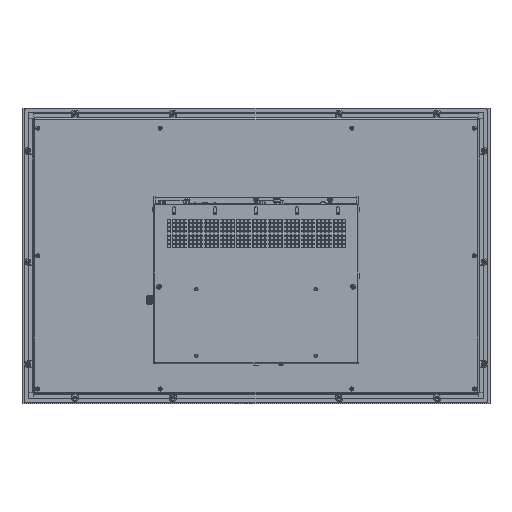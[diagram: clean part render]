
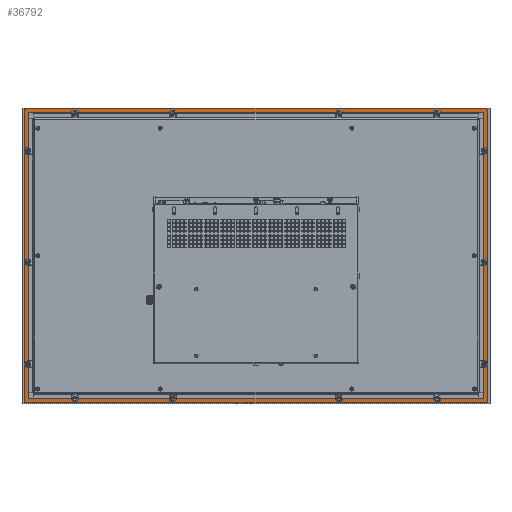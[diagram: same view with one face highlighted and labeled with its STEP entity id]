
A CAD part, front view. The second image highlights one B-rep face of the part: STEP entity #36792.
In plain terms, the highlighted planar face has unit normal (0, -1, 0).
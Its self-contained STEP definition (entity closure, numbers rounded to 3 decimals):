
#35078=CARTESIAN_POINT('',(286.25,0.5,-180.5));
#35079=DIRECTION('',(0.,1.,0.));
#35080=DIRECTION('',(1.,0.,0.));
#35081=AXIS2_PLACEMENT_3D('',#35078,#35079,#35080);
#35083=DIRECTION('',(-1.,0.,0.));
#35084=VECTOR('',#35083,572.5);
#35085=CARTESIAN_POINT('',(286.25,0.5,-182.5));
#35086=LINE('',#35085,#35084);
#35087=CARTESIAN_POINT('',(-286.25,0.5,-180.5));
#35088=DIRECTION('',(0.,1.,0.));
#35089=DIRECTION('',(0.,0.,-1.));
#35090=AXIS2_PLACEMENT_3D('',#35087,#35088,#35089);
#35092=DIRECTION('',(0.,0.,1.));
#35093=VECTOR('',#35092,361.);
#35094=CARTESIAN_POINT('',(-288.25,0.5,-180.5));
#35095=LINE('',#35094,#35093);
#35096=CARTESIAN_POINT('',(-286.25,0.5,180.5));
#35097=DIRECTION('',(0.,1.,0.));
#35098=DIRECTION('',(-1.,0.,0.));
#35099=AXIS2_PLACEMENT_3D('',#35096,#35097,#35098);
#35101=DIRECTION('',(1.,0.,0.));
#35102=VECTOR('',#35101,572.5);
#35103=CARTESIAN_POINT('',(-286.25,0.5,182.5));
#35104=LINE('',#35103,#35102);
#35105=CARTESIAN_POINT('',(286.25,0.5,180.5));
#35106=DIRECTION('',(0.,1.,0.));
#35107=DIRECTION('',(0.,0.,1.));
#35108=AXIS2_PLACEMENT_3D('',#35105,#35106,#35107);
#35110=DIRECTION('',(0.,0.,-1.));
#35111=VECTOR('',#35110,361.);
#35112=CARTESIAN_POINT('',(288.25,0.5,180.5));
#35113=LINE('',#35112,#35111);
#35114=CARTESIAN_POINT('',(282.25,0.5,-176.5));
#35115=DIRECTION('',(0.,-1.,0.));
#35116=DIRECTION('',(0.,0.,-1.));
#35117=AXIS2_PLACEMENT_3D('',#35114,#35115,#35116);
#35119=DIRECTION('',(0.,0.,1.));
#35120=VECTOR('',#35119,353.);
#35121=CARTESIAN_POINT('',(283.25,0.5,-176.5));
#35122=LINE('',#35121,#35120);
#35123=CARTESIAN_POINT('',(282.25,0.5,176.5));
#35124=DIRECTION('',(0.,-1.,0.));
#35125=DIRECTION('',(1.,0.,0.));
#35126=AXIS2_PLACEMENT_3D('',#35123,#35124,#35125);
#35128=DIRECTION('',(-1.,0.,0.));
#35129=VECTOR('',#35128,564.5);
#35130=CARTESIAN_POINT('',(282.25,0.5,177.5));
#35131=LINE('',#35130,#35129);
#35132=CARTESIAN_POINT('',(-282.25,0.5,176.5));
#35133=DIRECTION('',(0.,-1.,0.));
#35134=DIRECTION('',(0.,0.,1.));
#35135=AXIS2_PLACEMENT_3D('',#35132,#35133,#35134);
#35137=DIRECTION('',(0.,0.,-1.));
#35138=VECTOR('',#35137,353.);
#35139=CARTESIAN_POINT('',(-283.25,0.5,176.5));
#35140=LINE('',#35139,#35138);
#35141=CARTESIAN_POINT('',(-282.25,0.5,-176.5));
#35142=DIRECTION('',(0.,-1.,0.));
#35143=DIRECTION('',(-1.,0.,0.));
#35144=AXIS2_PLACEMENT_3D('',#35141,#35142,#35143);
#35146=DIRECTION('',(1.,0.,0.));
#35147=VECTOR('',#35146,564.5);
#35148=CARTESIAN_POINT('',(-282.25,0.5,-177.5));
#35149=LINE('',#35148,#35147);
#36109=CARTESIAN_POINT('',(288.25,0.5,-180.5));
#36110=CARTESIAN_POINT('',(286.25,0.5,-182.5));
#36111=VERTEX_POINT('',#36109);
#36112=VERTEX_POINT('',#36110);
#36113=CARTESIAN_POINT('',(288.25,0.5,180.5));
#36114=VERTEX_POINT('',#36113);
#36115=CARTESIAN_POINT('',(286.25,0.5,182.5));
#36116=VERTEX_POINT('',#36115);
#36117=CARTESIAN_POINT('',(-286.25,0.5,182.5));
#36118=VERTEX_POINT('',#36117);
#36119=CARTESIAN_POINT('',(-288.25,0.5,180.5));
#36120=VERTEX_POINT('',#36119);
#36121=CARTESIAN_POINT('',(-288.25,0.5,-180.5));
#36122=VERTEX_POINT('',#36121);
#36123=CARTESIAN_POINT('',(-286.25,0.5,-182.5));
#36124=VERTEX_POINT('',#36123);
#36157=CARTESIAN_POINT('',(282.25,0.5,-177.5));
#36158=CARTESIAN_POINT('',(283.25,0.5,-176.5));
#36159=VERTEX_POINT('',#36157);
#36160=VERTEX_POINT('',#36158);
#36161=CARTESIAN_POINT('',(283.25,0.5,176.5));
#36162=VERTEX_POINT('',#36161);
#36163=CARTESIAN_POINT('',(282.25,0.5,177.5));
#36164=VERTEX_POINT('',#36163);
#36165=CARTESIAN_POINT('',(-282.25,0.5,177.5));
#36166=VERTEX_POINT('',#36165);
#36167=CARTESIAN_POINT('',(-283.25,0.5,176.5));
#36168=VERTEX_POINT('',#36167);
#36169=CARTESIAN_POINT('',(-283.25,0.5,-176.5));
#36170=VERTEX_POINT('',#36169);
#36171=CARTESIAN_POINT('',(-282.25,0.5,-177.5));
#36172=VERTEX_POINT('',#36171);
#36751=CARTESIAN_POINT('',(0.,0.5,0.));
#36752=DIRECTION('',(0.,-1.,0.));
#36753=DIRECTION('',(-1.,0.,0.));
#36754=AXIS2_PLACEMENT_3D('',#36751,#36752,#36753);
#36755=PLANE('',#36754);
#36757=ORIENTED_EDGE('',*,*,#36756,.T.);
#36759=ORIENTED_EDGE('',*,*,#36758,.T.);
#36761=ORIENTED_EDGE('',*,*,#36760,.T.);
#36763=ORIENTED_EDGE('',*,*,#36762,.T.);
#36765=ORIENTED_EDGE('',*,*,#36764,.T.);
#36767=ORIENTED_EDGE('',*,*,#36766,.T.);
#36769=ORIENTED_EDGE('',*,*,#36768,.T.);
#36771=ORIENTED_EDGE('',*,*,#36770,.T.);
#36772=EDGE_LOOP('',(#36757,#36759,#36761,#36763,#36765,#36767,#36769,#36771));
#36773=FACE_OUTER_BOUND('',#36772,.F.);
#36775=ORIENTED_EDGE('',*,*,#36774,.T.);
#36777=ORIENTED_EDGE('',*,*,#36776,.T.);
#36779=ORIENTED_EDGE('',*,*,#36778,.T.);
#36781=ORIENTED_EDGE('',*,*,#36780,.T.);
#36783=ORIENTED_EDGE('',*,*,#36782,.T.);
#36785=ORIENTED_EDGE('',*,*,#36784,.T.);
#36787=ORIENTED_EDGE('',*,*,#36786,.T.);
#36789=ORIENTED_EDGE('',*,*,#36788,.T.);
#36790=EDGE_LOOP('',(#36775,#36777,#36779,#36781,#36783,#36785,#36787,#36789));
#36791=FACE_BOUND('',#36790,.F.);
#35082=CIRCLE('',#35081,2.);
#35091=CIRCLE('',#35090,2.);
#35100=CIRCLE('',#35099,2.);
#35109=CIRCLE('',#35108,2.);
#35118=CIRCLE('',#35117,1.);
#35127=CIRCLE('',#35126,1.);
#35136=CIRCLE('',#35135,1.);
#35145=CIRCLE('',#35144,1.);
#36756=EDGE_CURVE('',#36111,#36112,#35082,.T.);
#36758=EDGE_CURVE('',#36112,#36124,#35086,.T.);
#36760=EDGE_CURVE('',#36124,#36122,#35091,.T.);
#36762=EDGE_CURVE('',#36122,#36120,#35095,.T.);
#36764=EDGE_CURVE('',#36120,#36118,#35100,.T.);
#36766=EDGE_CURVE('',#36118,#36116,#35104,.T.);
#36768=EDGE_CURVE('',#36116,#36114,#35109,.T.);
#36770=EDGE_CURVE('',#36114,#36111,#35113,.T.);
#36774=EDGE_CURVE('',#36159,#36160,#35118,.T.);
#36776=EDGE_CURVE('',#36160,#36162,#35122,.T.);
#36778=EDGE_CURVE('',#36162,#36164,#35127,.T.);
#36780=EDGE_CURVE('',#36164,#36166,#35131,.T.);
#36782=EDGE_CURVE('',#36166,#36168,#35136,.T.);
#36784=EDGE_CURVE('',#36168,#36170,#35140,.T.);
#36786=EDGE_CURVE('',#36170,#36172,#35145,.T.);
#36788=EDGE_CURVE('',#36172,#36159,#35149,.T.);
#36792=ADVANCED_FACE('',(#36773,#36791),#36755,.T.);
